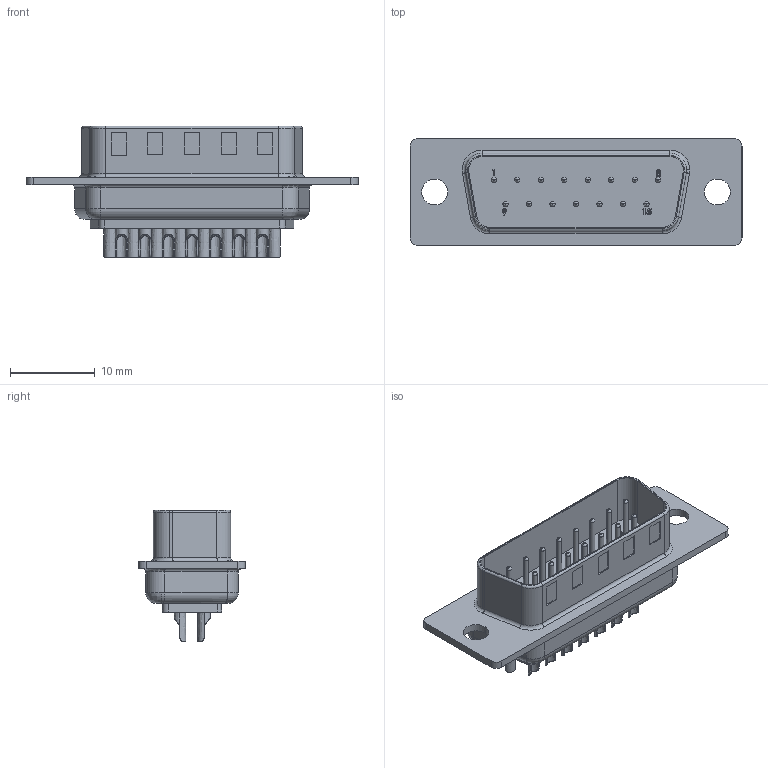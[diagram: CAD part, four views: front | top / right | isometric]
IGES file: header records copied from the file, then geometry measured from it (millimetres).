
Global section: file name: Filename.iges; native system: Open CASCADE 7.3; preprocessor: Open CASCADE IGES processor 7.3; date: 20201223.080450; units: millimetre
Bounding box: 39.15 x 12.6 x 15.52 mm (x, y, z)
Surface area: 2691.8 mm2 (no closed solid volume)
Topology: 0 solids, 0 shells, 553 faces, 2650 edges, 2650 vertices
Faces by surface type: revolution 255, plane 234, bspline 64
